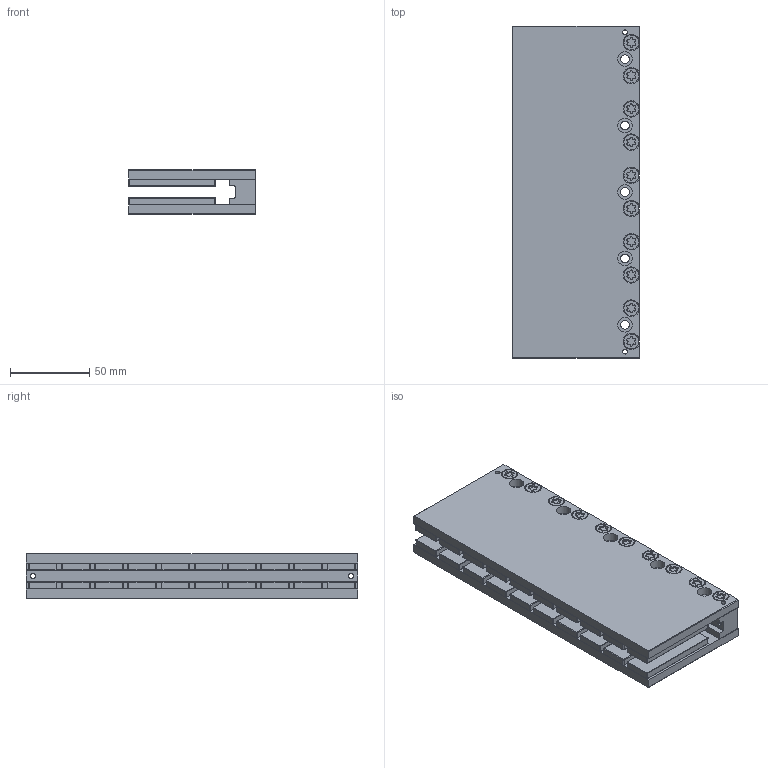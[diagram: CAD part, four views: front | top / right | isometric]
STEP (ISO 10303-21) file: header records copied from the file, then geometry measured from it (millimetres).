
FILE_DESCRIPTION( ( '-' ), '1' );
FILE_NAME( 'C:/Users/peikelboom/Desktop/STEP Files/Ironless/UL/Iron Less_UL 210 mm_MagnetYoke 160607.stp', '20-04-2016', ( 'P.Eikelboom' ), ( 'Technotion' ), 'PSStep 16.0.42', '-', ' ' );
FILE_SCHEMA( ( 'AUTOMOTIVE_DESIGN { 1 0 10303 214 1 1 1 1 }' ) );
Length unit declared in the file: millimetre
Products named in the file (1): 2522 203 07034-oa18
Bounding box: 80 x 209.92 x 28.4 mm (x, y, z)
Surface area: 98424.3 mm2 (no closed solid volume)
Topology: 0 solids, 1253 shells, 1253 faces, 6029 edges, 5867 vertices
Faces by surface type: cylinder 571, plane 452, bspline 160, cone 70
Full cylindrical faces by diameter (mm): 3 x2, 3.242 x2, 4.2 x10, 5 x20, 5.5 x25, 9.2 x10, 9.3 x20
Entity records: 71902 total; most frequent: CARTESIAN_POINT 15854, DIRECTION 10640, ORIENTED_EDGE 5792, EDGE_CURVE 5792, VERTEX_POINT 5792, AXIS2_PLACEMENT_3D 3798, LINE 3044, VECTOR 3044
